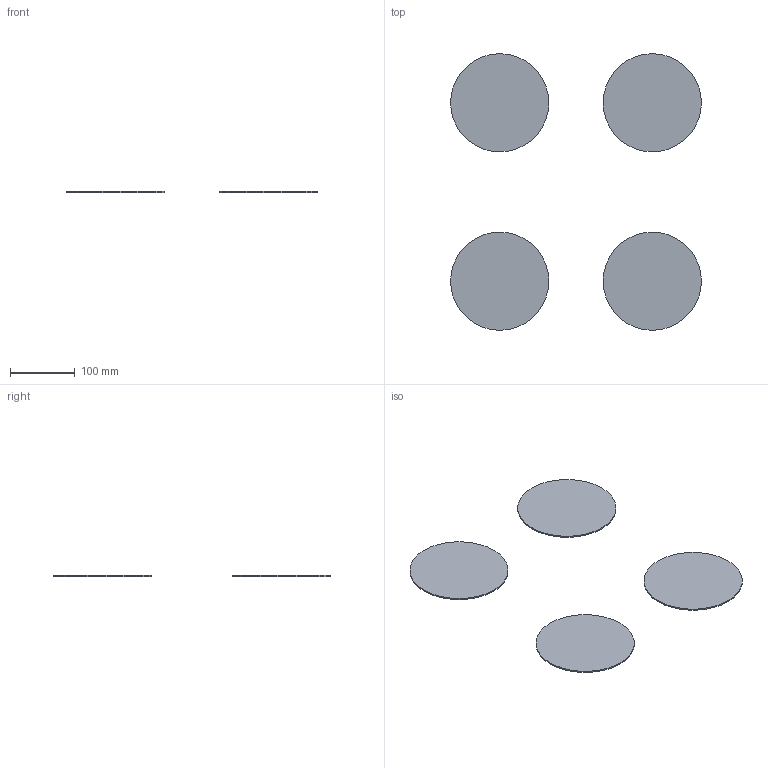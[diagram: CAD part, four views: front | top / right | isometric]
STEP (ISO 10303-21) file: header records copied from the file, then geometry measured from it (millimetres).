
FILE_DESCRIPTION(('FreeCAD Model'),'2;1');
FILE_NAME('Open CASCADE Shape Model','2026-10-26T00:06:28',('FreeCAD'),( 'FreeCAD'),'Open CASCADE STEP processor 8.0','FreeCAD','Unknown');
FILE_SCHEMA(('AUTOMOTIVE_DESIGN { 1 0 10303 214 1 1 1 1 }'));
Length unit declared in the file: millimetre
Products named in the file (1): Open CASCADE STEP translator 8.0 5
Bounding box: 388 x 428 x 2 mm (x, y, z)
Volume: 145166.7 mm3; surface area: 148986.9 mm2
Topology: 4 solids, 4 shells, 12 faces, 12 edges, 8 vertices
Faces by surface type: plane 8, cylinder 4
Full cylindrical faces by diameter (mm): 152 x4
Entity records: 228 total; most frequent: DIRECTION 46, CARTESIAN_POINT 33, ORIENTED_EDGE 24, AXIS2_PLACEMENT_3D 21, ADVANCED_FACE 12, FACE_BOUND 12, EDGE_LOOP 12, EDGE_CURVE 12
